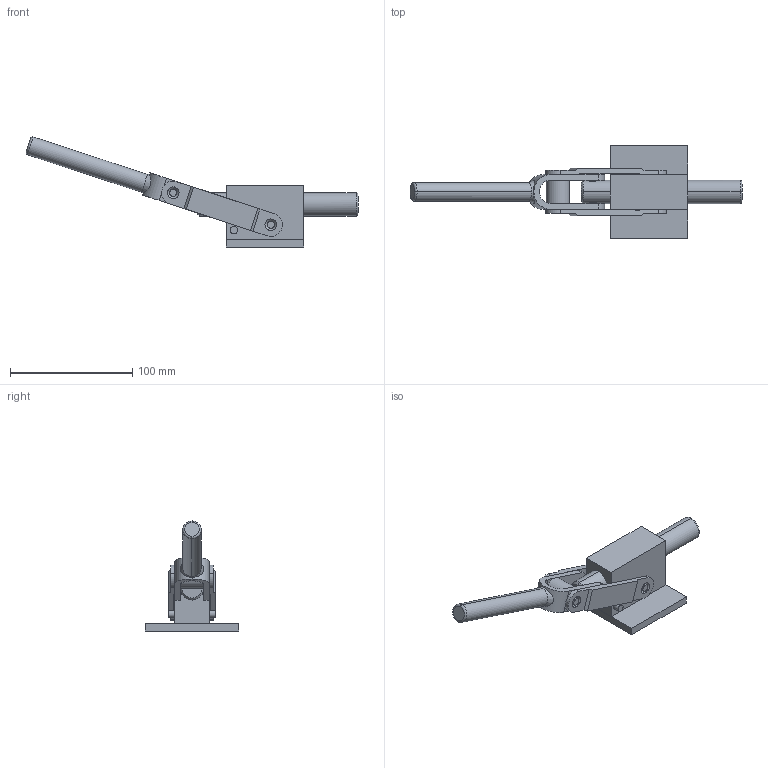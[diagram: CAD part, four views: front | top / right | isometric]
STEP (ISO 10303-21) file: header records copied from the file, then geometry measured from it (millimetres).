
FILE_DESCRIPTION( ( '' ), '1' );
FILE_NAME( 'C:\Documents and Settings\Richard Grenzke\My Documents\Wolverine Company Data\WOLVERINE CD 5_17_05\SOLIDS STEP\straight_line\c130a.stp', ' ', ( '' ), ( '' ), 'ACIS Interop R16', 'Kubotek KeyCreator V5.5.1 (0454)', ' ' );
FILE_SCHEMA( ( 'CONFIG_CONTROL_DESIGN' ) );
Length unit declared in the file: inch
Products named in the file (13): 1; 2; 3; 4; 5; 6; 7; 8; 9; 10; 11; 12; 13
Bounding box: 271.92 x 76.2 x 90.21 mm (x, y, z)
Volume: 174277.2 mm3; surface area: 60988.3 mm2
Topology: 12 solids, 12 shells, 144 faces, 385 edges, 266 vertices
Faces by surface type: plane 66, cylinder 58, cone 16, torus 4
Entity records: 5350 total; most frequent: CARTESIAN_POINT 948, DIRECTION 865, ORIENTED_EDGE 770, EDGE_CURVE 385, AXIS2_PLACEMENT_3D 335, VERTEX_POINT 266, LINE 195, VECTOR 195
